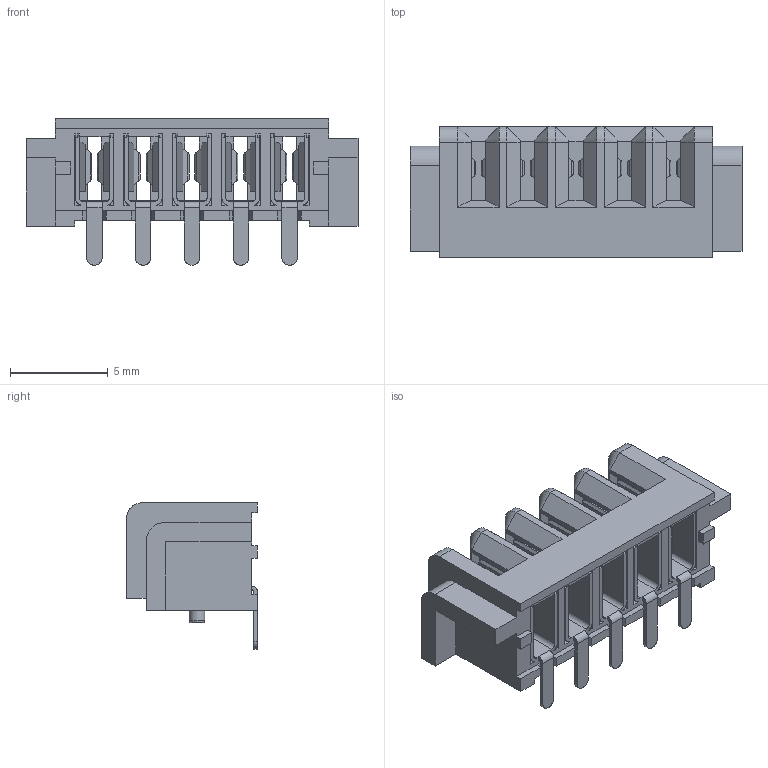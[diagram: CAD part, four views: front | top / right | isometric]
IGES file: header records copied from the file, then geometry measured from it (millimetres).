
Start section: SolidWorks IGES file using analytic representation for surfaces
Global section: file name: C:\Users\hsuan\Desktop\°õ¦æ§@·~\RFQ³æ\2026¦~\6¤ë\RB126060093\TSB0-02052-00XXA[3D].IGS; native system: SolidWorks 2022; preprocessor: SolidWorks 2022; author: hsuan; date: 260622.133746; units: millimetre
Bounding box: 17 x 6.7 x 7.5 mm (x, y, z)
Surface area: 1132.2 mm2 (no closed solid volume)
Topology: 0 solids, 0 shells, 732 faces, 5115 edges, 5115 vertices
Faces by surface type: bspline 510, revolution 222
